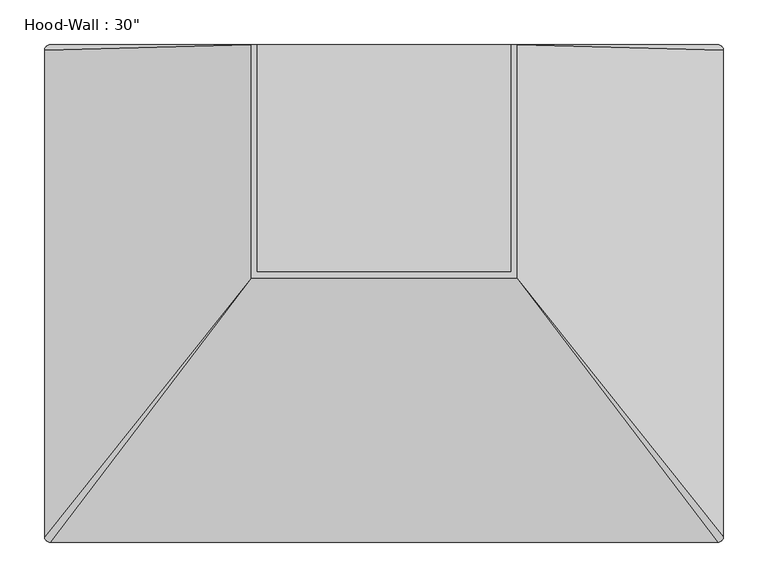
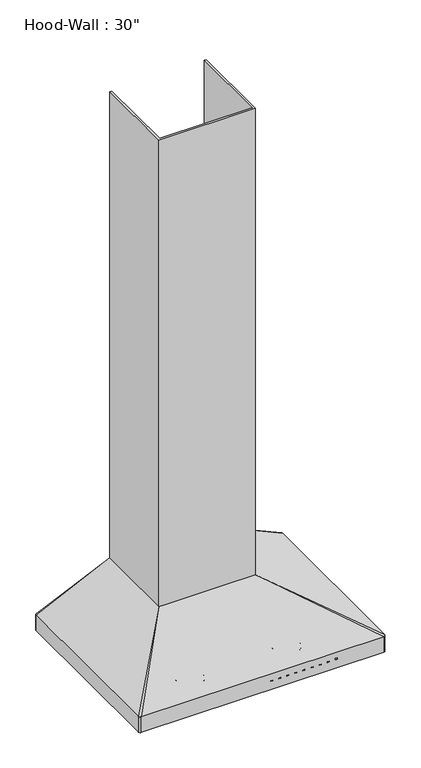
"""IFC4 building model written with IfcOpenShell, lengths in millimetres: proxy geometry."""

import ifcopenshell
import ifcopenshell.guid

model = None  # the IFC model being written
_history = None  # IfcOwnerHistory: only IFC2X3 demands one
_inside = {}  # id of a spatial element -> (the spatial element, [elements in it])
_under = {}  # id of a project, library or spatial element -> (it, [spatial elements below it])
_declared = {}  # id of a project -> (the project, [libraries it declares])
_typed = {}  # id of a type object -> (the type object, [elements of that type])
_made_of = {}  # id of a material, layer set ... -> (it, [elements and type objects made of it])


def new_model(schema):
    """Start an empty IFC model of exactly this schema.

    Asked for "IFC4X3", IfcOpenShell would pick the latest addendum, in which some entities
    have other attributes; the version numbers below select the first issue.
    IFC2X3 requires an IfcOwnerHistory on every rooted entity: one is made here for all.
    """
    global model, _history
    if schema == "IFC4X3":
        model = ifcopenshell.file(schema_version=(4, 3, 0, 0))
    else:
        model = ifcopenshell.file(schema=schema)
    _inside.clear()
    _under.clear()
    _declared.clear()
    _typed.clear()
    _made_of.clear()
    _history = None
    if model.schema == "IFC2X3":
        org = make("IfcOrganization", Name="unknown")
        user = make(
            "IfcPersonAndOrganization",
            ThePerson=make("IfcPerson", FamilyName="unknown"),
            TheOrganization=org,
        )
        app = make(
            "IfcApplication",
            ApplicationDeveloper=org,
            Version="unknown",
            ApplicationFullName="unknown",
            ApplicationIdentifier="unknown",
        )
        _history = make(
            "IfcOwnerHistory",
            OwningUser=user,
            OwningApplication=app,
            ChangeAction="ADDED",
            CreationDate=0,
        )
    return model


def make(cls, **values):
    """One entity of the class cls with the attributes given. An attribute that is None is left unset."""
    return model.create_entity(
        cls, **{name: value for name, value in values.items() if value is not None}
    )


def rooted(cls, **values):
    """An entity with a GlobalId (a new one), such as an element, a storey or a relation."""
    return make(cls, GlobalId=ifcopenshell.guid.new(), OwnerHistory=_history, **values)


def si_unit(unit_type, name, prefix=None):
    """IfcSIUnit, for example si_unit("LENGTHUNIT", "METRE", prefix="MILLI")."""
    return make("IfcSIUnit", UnitType=unit_type, Prefix=prefix, Name=name)


def assignment(units):
    """IfcUnitAssignment: the units of a project."""
    return None if units is None else make("IfcUnitAssignment", Units=units)


def point(xyz):
    """IfcCartesianPoint."""
    return None if xyz is None else make("IfcCartesianPoint", Coordinates=xyz)


def direction(xyz):
    """IfcDirection."""
    return None if xyz is None else make("IfcDirection", DirectionRatios=xyz)


def frame(location, z_axis=None, x_axis=None):
    """IfcAxis2Placement3D, a coordinate frame: its origin and axes. An axis left out is left unset."""
    return make(
        "IfcAxis2Placement3D",
        Location=point(location),
        Axis=direction(z_axis),
        RefDirection=direction(x_axis),
    )


def frame_2d(location, x_axis=None):
    """IfcAxis2Placement2D, a coordinate frame in the plane: its origin and x axis."""
    return make(
        "IfcAxis2Placement2D", Location=point(location), RefDirection=direction(x_axis)
    )


def origin():
    """The frame at (0, 0, 0) with its axes left unset."""
    return frame((0.0, 0.0, 0.0))


def place(relative_to, where):
    """IfcLocalPlacement: puts the frame where relative to a parent placement (None: the world)."""
    return make(
        "IfcLocalPlacement", PlacementRelTo=relative_to, RelativePlacement=where
    )


def context(
    kind, dimensions, precision=None, world=None, true_north=None, identifier=None
):
    """IfcGeometricRepresentationContext, for example the 3D "Model" context."""
    return make(
        "IfcGeometricRepresentationContext",
        ContextIdentifier=identifier,
        ContextType=kind,
        CoordinateSpaceDimension=dimensions,
        Precision=precision,
        WorldCoordinateSystem=world,
        TrueNorth=true_north,
    )


def project(units=None, contexts=None):
    """IfcProject with its units and contexts."""
    return rooted(
        "IfcProject",
        Name="project",
        RepresentationContexts=contexts,
        UnitsInContext=assignment(units),
    )


def spatial(cls, under=None, at=None, **own):
    """A site, building, storey or space (cls), placed at a placement, below another one or the project."""
    s = rooted(cls, ObjectPlacement=at, **own)
    if under is not None:
        _under.setdefault(under.id(), (under, []))[1].append(s)
    return s


def polyline(points):
    """IfcPolyline through the points."""
    return make("IfcPolyline", Points=[point(p) for p in points])


def circle_curve(where, radius):
    """IfcCircle in the frame where."""
    return make("IfcCircle", Position=where, Radius=radius)


def ellipse_curve(where, semi_axis1, semi_axis2):
    """IfcEllipse in the frame where."""
    return make(
        "IfcEllipse", Position=where, SemiAxis1=semi_axis1, SemiAxis2=semi_axis2
    )


def trimmed(basis, trim1, trim2, sense, master):
    """IfcTrimmedCurve: the piece of a basis curve between two trims."""
    return make(
        "IfcTrimmedCurve",
        BasisCurve=basis,
        Trim1=trim1,
        Trim2=trim2,
        SenseAgreement=sense,
        MasterRepresentation=master,
    )


def segment(curve, same_sense, transition):
    """IfcCompositeCurveSegment."""
    return make(
        "IfcCompositeCurveSegment",
        Transition=transition,
        SameSense=same_sense,
        ParentCurve=curve,
    )


def composite_curve(segments, self_intersect=None):
    """IfcCompositeCurve: segments joined end to end."""
    return make("IfcCompositeCurve", Segments=segments, SelfIntersect=self_intersect)


def outline(outer, holes=None, kind="AREA"):
    """IfcArbitraryClosedProfileDef: a profile drawn as a closed curve; with holes, ...WithVoids."""
    if holes is None:
        return make("IfcArbitraryClosedProfileDef", ProfileType=kind, OuterCurve=outer)
    return make(
        "IfcArbitraryProfileDefWithVoids",
        ProfileType=kind,
        OuterCurve=outer,
        InnerCurves=holes,
    )


def extrude(swept, where, along, depth):
    """IfcExtrudedAreaSolid: the profile swept, set in the frame where, extruded along a direction by depth."""
    return make(
        "IfcExtrudedAreaSolid",
        SweptArea=swept,
        Position=where,
        ExtrudedDirection=direction(along),
        Depth=depth,
    )


def shape(context_of_items, identifier, shape_type, items):
    """IfcShapeRepresentation: the items that make up one representation, for example the "Body"."""
    return make(
        "IfcShapeRepresentation",
        ContextOfItems=context_of_items,
        RepresentationIdentifier=identifier,
        RepresentationType=shape_type,
        Items=items,
    )


def source(mapping_origin, context_of_items, identifier, shape_type, items):
    """IfcRepresentationMap: a shape defined once, which mapped items show again and again."""
    return make(
        "IfcRepresentationMap",
        MappingOrigin=mapping_origin,
        MappedRepresentation=shape(context_of_items, identifier, shape_type, items),
    )


def transform(
    local_origin,
    x_axis=None,
    y_axis=None,
    z_axis=None,
    scale=None,
    scale2=None,
    scale3=None,
    uniform=True,
):
    """IfcCartesianTransformationOperator3D, or its non-uniform kind. x_axis, y_axis, z_axis: its Axis1, 2, 3."""
    if uniform:
        return make(
            "IfcCartesianTransformationOperator3D",
            Axis1=direction(x_axis),
            Axis2=direction(y_axis),
            LocalOrigin=point(local_origin),
            Scale=scale,
            Axis3=direction(z_axis),
        )
    return make(
        "IfcCartesianTransformationOperator3DnonUniform",
        Axis1=direction(x_axis),
        Axis2=direction(y_axis),
        LocalOrigin=point(local_origin),
        Scale=scale,
        Axis3=direction(z_axis),
        Scale2=scale2,
        Scale3=scale3,
    )


def mapped(mapping_source, mapping_target):
    """IfcMappedItem: shows the shape of a source again, moved by a transform."""
    return make(
        "IfcMappedItem", MappingSource=mapping_source, MappingTarget=mapping_target
    )


def made_of(thing, what):
    """Note that an element or type object is made of a material, layer set ...; save() writes the relation."""
    if what is not None:
        _made_of.setdefault(what.id(), (what, []))[1].append(thing)
    return thing


def element(
    cls,
    number,
    at=None,
    inside=None,
    cuts=None,
    type_object=None,
    material=None,
    context=None,
    identifier="Body",
    shape_type=None,
    held_by="IfcProductDefinitionShape",
    body=None,
    shapes=None,
    **own,
):
    """One element of the class cls, such as IfcWall. Its Tag is "e" and its number.

    at: its placement. inside: the storey or other place that contains it. cuts: it is an
    opening in that element (IfcRelVoidsElement). A single representation is given by context,
    identifier, shape_type and body (its items); several are given by shapes. held_by: the class
    of the entity that holds the representations. save() writes the other relations.
    """
    e = rooted(cls, Tag="e%d" % number, ObjectPlacement=at, **own)
    if body is not None:
        shapes = [shape(context, identifier, shape_type, body)]
    if shapes is not None:
        e.Representation = make(held_by, Representations=shapes)
    if inside is not None:
        _inside.setdefault(inside.id(), (inside, []))[1].append(e)
    if cuts is not None:
        rooted(
            "IfcRelVoidsElement", RelatingBuildingElement=cuts, RelatedOpeningElement=e
        )
    if type_object is not None:
        _typed.setdefault(type_object.id(), (type_object, []))[1].append(e)
    return made_of(e, material)


def aggregate(whole, parts):
    """IfcRelAggregates: a whole, such as a stair, and the parts it consists of."""
    return rooted("IfcRelAggregates", RelatingObject=whole, RelatedObjects=parts)


def save(model, path):
    """Write the relations noted so far, then the file.

    IfcRelAggregates (storeys below a building ...), IfcRelContainedInSpatialStructure (elements
    in a storey), IfcRelDefinesByType, IfcRelAssociatesMaterial and IfcRelDeclares: one each for
    every whole, place, type object, material and project.
    """
    for whole, parts in _under.values():
        aggregate(whole, parts)
    for where, things in _inside.values():
        rooted(
            "IfcRelContainedInSpatialStructure",
            RelatedElements=things,
            RelatingStructure=where,
        )
    for kind, things in _typed.values():
        rooted("IfcRelDefinesByType", RelatedObjects=things, RelatingType=kind)
    for what, things in _made_of.values():
        rooted("IfcRelAssociatesMaterial", RelatedObjects=things, RelatingMaterial=what)
    for by, libraries in _declared.values():
        rooted("IfcRelDeclares", RelatingContext=by, RelatedDefinitions=libraries)
    model.write(path)


def plane_surface(at):
    """IfcPlane: the flat surface through the origin of the frame at, square to its z axis."""
    return make("IfcPlane", Position=at)


def cylinder_surface(at, radius):
    """IfcCylindricalSurface: all points at the distance radius from the z axis of the frame at."""
    return make("IfcCylindricalSurface", Position=at, Radius=radius)


def revolved_surface(curve, axis_point, axis_direction):
    """IfcSurfaceOfRevolution: the curve turned about the line through axis_point along axis_direction."""
    return make(
        "IfcSurfaceOfRevolution",
        SweptCurve=make("IfcArbitraryOpenProfileDef", ProfileType="CURVE", Curve=curve),
        AxisPosition=make("IfcAxis1Placement", Location=point(axis_point), Axis=direction(axis_direction)),
    )


def spline_surface(u_degree, v_degree, points, u_multiplicities, v_multiplicities, u_knots, v_knots, weights=None):
    """IfcBSplineSurfaceWithKnots; with weights, IfcRationalBSplineSurfaceWithKnots. points: one row for each step in u."""
    own = dict(
        UDegree=u_degree,
        VDegree=v_degree,
        ControlPointsList=[[point(p) for p in row] for row in points],
        SurfaceForm="UNSPECIFIED",
        UClosed=False,
        VClosed=False,
        SelfIntersect=False,
        UMultiplicities=u_multiplicities,
        VMultiplicities=v_multiplicities,
        UKnots=u_knots,
        VKnots=v_knots,
        KnotSpec="UNSPECIFIED",
    )
    if weights is None:
        return make("IfcBSplineSurfaceWithKnots", **own)
    return make("IfcRationalBSplineSurfaceWithKnots", WeightsData=weights, **own)


def advanced_brep(points, edges, surfaces, faces):
    """IfcAdvancedBrep: a solid bounded by faces that lie on surfaces and meet in shared edges.

    An edge is (start, end): straight between two places in points (the first is 0);
    or (start, end, curve); or (start, end, curve, False) where it runs against its curve.
    A face is (place in surfaces, loops), or (place, loops, False) where it looks against
    its surface's normal. A loop lists edges by number (the first is 1), with a minus sign
    where the edge is run from its end to its start. The first loop is the outer one.
    """
    corners = [point(p) for p in points]
    vertices = [make("IfcVertexPoint", VertexGeometry=c) for c in corners]
    made = []
    for start, end, *more in edges:
        made.append(
            make(
                "IfcEdgeCurve",
                EdgeStart=vertices[start],
                EdgeEnd=vertices[end],
                EdgeGeometry=more[0] if more else make("IfcPolyline", Points=[corners[start], corners[end]]),
                SameSense=more[1] if len(more) > 1 else True,
            )
        )
    hull = []
    for where, loops, *sense in faces:
        bounds = []
        for j, loop in enumerate(loops):
            ring = [make("IfcOrientedEdge", EdgeElement=made[abs(k) - 1], Orientation=k > 0) for k in loop]
            bounds.append(
                make(
                    "IfcFaceOuterBound" if j == 0 else "IfcFaceBound",
                    Bound=make("IfcEdgeLoop", EdgeList=ring),
                    Orientation=True,
                )
            )
        hull.append(make("IfcAdvancedFace", Bounds=bounds, FaceSurface=surfaces[where], SameSense=sense[0] if sense else True))
    return make("IfcAdvancedBrep", Outer=make("IfcClosedShell", CfsFaces=hull))


def proxy_2b3b6c7e(model_context):
    return source(origin(), model_context, "Body", "SolidModel", [
        advanced_brep(
        [(-108.3239615, -121.1000753, 22.225), (-190.1260385, -121.1000753, 22.225), (-190.1260385, -121.1000753, 25.4), (-108.3239615, -121.1000753, 25.4), (-111.4989615, -121.1000753, 22.225), (-186.9510385, -121.1000753, 22.225), (-149.225, -121.1000753, 22.225), (-113.9260385, -121.1000753, 39.0878257), (-184.5239615, -121.1000753, 39.0878257), (-149.225, -121.1000753, 39.0878257), (-111.125, -121.1000753, 26.9551949), (-187.325, -121.1000753, 26.9551949), (-111.125, -121.1000753, 25.4), (-187.325, -121.1000753, 25.4)],
        [
            (0, 1, circle_curve(frame((-149.225, -121.1000753, 22.225), z_axis=(0.0, 0.0, 1.0), x_axis=(-1.0, 0.0, 0.0)), 40.9010385)),
            (1, 2),
            (2, 3, circle_curve(frame((-149.225, -121.1000753, 25.4), z_axis=(0.0, 0.0, -1.0), x_axis=(-1.0, 0.0, 0.0)), 40.9010385)),
            (3, 0),
            (1, 0, circle_curve(frame((-149.225, -121.1000753, 22.225), z_axis=(0.0, 0.0, 1.0), x_axis=(-1.0, 0.0, 0.0)), 40.9010385)),
            (3, 2, circle_curve(frame((-149.225, -121.1000753, 25.4), z_axis=(0.0, 0.0, -1.0), x_axis=(-1.0, 0.0, 0.0)), 40.9010385)),
            (4, 5, circle_curve(frame((-149.225, -121.1000753, 22.225), z_axis=(0.0, 0.0, 1.0), x_axis=(-1.0, 0.0, 0.0)), 37.7260385)),
            (5, 1, circle_curve(frame((-188.5385385, -121.1000753, 22.225), z_axis=(0.0, 1.0, 0.0), x_axis=(1.0, 0.0, 0.0)), 1.5875)),
            (0, 4, circle_curve(frame((-109.9114615, -121.1000753, 22.225), z_axis=(0.0, 1.0, 0.0), x_axis=(-1.0, 0.0, 0.0)), 1.5875)),
            (5, 4, circle_curve(frame((-149.225, -121.1000753, 22.225), z_axis=(0.0, 0.0, 1.0), x_axis=(-1.0, 0.0, 0.0)), 37.7260385)),
            (6, 5),
            (4, 6),
            (7, 8, circle_curve(frame((-149.225, -121.1000753, 39.0878257), z_axis=(0.0, 0.0, 1.0), x_axis=(-1.0, 0.0, 0.0)), 35.2989615)),
            (8, 9),
            (9, 7),
            (8, 7, circle_curve(frame((-149.225, -121.1000753, 39.0878257), z_axis=(0.0, 0.0, 1.0), x_axis=(-1.0, 0.0, 0.0)), 35.2989615)),
            (10, 11, circle_curve(frame((-149.225, -121.1000753, 26.9551949), z_axis=(0.0, 0.0, 1.0), x_axis=(-1.0, 0.0, 0.0)), 38.1)),
            (11, 8),
            (7, 10),
            (11, 10, circle_curve(frame((-149.225, -121.1000753, 26.9551949), z_axis=(0.0, 0.0, 1.0), x_axis=(-1.0, 0.0, 0.0)), 38.1)),
            (12, 13, circle_curve(frame((-149.225, -121.1000753, 25.4), z_axis=(0.0, 0.0, 1.0), x_axis=(-1.0, 0.0, 0.0)), 38.1)),
            (13, 11),
            (10, 12),
            (13, 12, circle_curve(frame((-149.225, -121.1000753, 25.4), z_axis=(0.0, 0.0, 1.0), x_axis=(-1.0, 0.0, 0.0)), 38.1)),
            (2, 13),
            (12, 3),
        ],
        [
            cylinder_surface(frame((-149.225, -121.1000753, -25.4), z_axis=(0.0, 0.0, -1.0), x_axis=(-1.0, 0.0, 0.0)), 40.9010385),
            revolved_surface(trimmed(ellipse_curve(frame((-188.5385385, -121.1000753, 22.225), z_axis=(0.0, -1.0, 0.0), x_axis=(1.0, 0.0, 0.0)), 1.5875, 1.5875), [point((-190.1260385, -121.1000753, 22.225))], [point((-186.9510385, -121.1000753, 22.225))], True, "CARTESIAN"), (-149.225, -121.1000753, -25.4), (0.0, 0.0, -1.0)),
            plane_surface(frame((-149.225, -121.1000753, 22.225), z_axis=(0.0, 0.0, -1.0), x_axis=(-1.0, 0.0, 0.0))),
            plane_surface(frame((-149.225, -121.1000753, 39.0878257), z_axis=(0.0, 0.0, 1.0), x_axis=(-1.0, 0.0, 0.0))),
            revolved_surface(polyline([(-184.5239615, -121.1000753, 39.0878257), (-187.325, -121.1000753, 26.9551949)]), (-149.225, -121.1000753, -25.4), (0.0, 0.0, -1.0)),
            cylinder_surface(frame((-149.225, -121.1000753, -25.4), z_axis=(0.0, 0.0, -1.0), x_axis=(-1.0, 0.0, 0.0)), 38.1),
            plane_surface(frame((-149.225, -121.1000753, 25.4), z_axis=(0.0, 0.0, 1.0), x_axis=(-1.0, 0.0, 0.0))),
        ],
        [
            (0, [[1, 2, 3, 4]]),
            (0, [[5, -4, 6, -2]]),
            (1, [[7, 8, -1, 9]]),
            (1, [[10, -9, -5, -8]]),
            (2, [[11, -7, 12]]),
            (2, [[-12, -10, -11]]),
            (3, [[13, 14, 15]]),
            (3, [[16, -15, -14]]),
            (4, [[17, 18, -13, 19]]),
            (4, [[20, -19, -16, -18]]),
            (5, [[21, 22, -17, 23]]),
            (5, [[24, -23, -20, -22]]),
            (6, [[-3, 25, -21, 26]]),
            (6, [[-6, -26, -24, -25]]),
        ],
    ),
        advanced_brep(
        [(190.1260385, -121.1000753, 22.225), (108.3239615, -121.1000753, 22.225), (108.3239615, -121.1000753, 25.4), (190.1260385, -121.1000753, 25.4), (186.9510385, -121.1000753, 22.225), (111.4989615, -121.1000753, 22.225), (149.225, -121.1000753, 22.225), (184.5239615, -121.1000753, 39.0878257), (113.9260385, -121.1000753, 39.0878257), (149.225, -121.1000753, 39.0878257), (187.325, -121.1000753, 26.9551949), (111.125, -121.1000753, 26.9551949), (187.325, -121.1000753, 25.4), (111.125, -121.1000753, 25.4)],
        [
            (0, 1, circle_curve(frame((149.225, -121.1000753, 22.225), z_axis=(0.0, 0.0, 1.0), x_axis=(-1.0, 0.0, 0.0)), 40.9010385)),
            (1, 2),
            (2, 3, circle_curve(frame((149.225, -121.1000753, 25.4), z_axis=(0.0, 0.0, -1.0), x_axis=(-1.0, 0.0, 0.0)), 40.9010385)),
            (3, 0),
            (1, 0, circle_curve(frame((149.225, -121.1000753, 22.225), z_axis=(0.0, 0.0, 1.0), x_axis=(-1.0, 0.0, 0.0)), 40.9010385)),
            (3, 2, circle_curve(frame((149.225, -121.1000753, 25.4), z_axis=(0.0, 0.0, -1.0), x_axis=(-1.0, 0.0, 0.0)), 40.9010385)),
            (4, 5, circle_curve(frame((149.225, -121.1000753, 22.225), z_axis=(0.0, 0.0, 1.0), x_axis=(-1.0, 0.0, 0.0)), 37.7260385)),
            (5, 1, circle_curve(frame((109.9114615, -121.1000753, 22.225), z_axis=(0.0, 1.0, 0.0), x_axis=(1.0, 0.0, 0.0)), 1.5875)),
            (0, 4, circle_curve(frame((188.5385385, -121.1000753, 22.225), z_axis=(0.0, 1.0, 0.0), x_axis=(-1.0, 0.0, 0.0)), 1.5875)),
            (5, 4, circle_curve(frame((149.225, -121.1000753, 22.225), z_axis=(0.0, 0.0, 1.0), x_axis=(-1.0, 0.0, 0.0)), 37.7260385)),
            (6, 5),
            (4, 6),
            (7, 8, circle_curve(frame((149.225, -121.1000753, 39.0878257), z_axis=(0.0, 0.0, 1.0), x_axis=(-1.0, 0.0, 0.0)), 35.2989615)),
            (8, 9),
            (9, 7),
            (8, 7, circle_curve(frame((149.225, -121.1000753, 39.0878257), z_axis=(0.0, 0.0, 1.0), x_axis=(-1.0, 0.0, 0.0)), 35.2989615)),
            (10, 11, circle_curve(frame((149.225, -121.1000753, 26.9551949), z_axis=(0.0, 0.0, 1.0), x_axis=(-1.0, 0.0, 0.0)), 38.1)),
            (11, 8),
            (7, 10),
            (11, 10, circle_curve(frame((149.225, -121.1000753, 26.9551949), z_axis=(0.0, 0.0, 1.0), x_axis=(-1.0, 0.0, 0.0)), 38.1)),
            (12, 13, circle_curve(frame((149.225, -121.1000753, 25.4), z_axis=(0.0, 0.0, 1.0), x_axis=(-1.0, 0.0, 0.0)), 38.1)),
            (13, 11),
            (10, 12),
            (13, 12, circle_curve(frame((149.225, -121.1000753, 25.4), z_axis=(0.0, 0.0, 1.0), x_axis=(-1.0, 0.0, 0.0)), 38.1)),
            (2, 13),
            (12, 3),
        ],
        [
            cylinder_surface(frame((149.225, -121.1000753, -25.4), z_axis=(0.0, 0.0, -1.0), x_axis=(-1.0, 0.0, 0.0)), 40.9010385),
            revolved_surface(trimmed(ellipse_curve(frame((109.9114615, -121.1000753, 22.225), z_axis=(0.0, -1.0, 0.0), x_axis=(1.0, 0.0, 0.0)), 1.5875, 1.5875), [point((108.3239615, -121.1000753, 22.225))], [point((111.4989615, -121.1000753, 22.225))], True, "CARTESIAN"), (149.225, -121.1000753, -25.4), (0.0, 0.0, -1.0)),
            plane_surface(frame((149.225, -121.1000753, 22.225), z_axis=(0.0, 0.0, -1.0), x_axis=(-1.0, 0.0, 0.0))),
            plane_surface(frame((149.225, -121.1000753, 39.0878257), z_axis=(0.0, 0.0, 1.0), x_axis=(-1.0, 0.0, 0.0))),
            revolved_surface(polyline([(113.9260385, -121.1000753, 39.0878257), (111.125, -121.1000753, 26.9551949)]), (149.225, -121.1000753, -25.4), (0.0, 0.0, -1.0)),
            cylinder_surface(frame((149.225, -121.1000753, -25.4), z_axis=(0.0, 0.0, -1.0), x_axis=(-1.0, 0.0, 0.0)), 38.1),
            plane_surface(frame((149.225, -121.1000753, 25.4), z_axis=(0.0, 0.0, 1.0), x_axis=(-1.0, 0.0, 0.0))),
        ],
        [
            (0, [[1, 2, 3, 4]]),
            (0, [[5, -4, 6, -2]]),
            (1, [[7, 8, -1, 9]]),
            (1, [[10, -9, -5, -8]]),
            (2, [[11, -7, 12]]),
            (2, [[-12, -10, -11]]),
            (3, [[13, 14, 15]]),
            (3, [[16, -15, -14]]),
            (4, [[17, 18, -13, 19]]),
            (4, [[20, -19, -16, -18]]),
            (5, [[21, 22, -17, 23]]),
            (5, [[24, -23, -20, -22]]),
            (6, [[-3, 25, -21, 26]]),
            (6, [[-6, -26, -24, -25]]),
        ],
    ),
        advanced_brep(
        [(374.65, 308.0000034, 0.0), (381.0, 301.6500034, 0.0), (381.0, -244.4499966, 0.0), (374.65, -250.7999966, 0.0), (-374.65, -250.7999966, 0.0), (-381.0, -244.4499966, 0.0), (-381.0, 301.6500034, 0.0), (-374.65, 308.0000034, 0.0), (330.2, 282.6000034, 0.0), (-330.2, 282.6000034, 0.0), (-330.2, -197.3000753, 0.0), (330.2, -197.3000753, 0.0), (-374.65, 308.0000034, 50.8), (-149.225, 308.0000034, 152.4), (-149.225, 308.0000034, 1676.4), (-142.875, 308.0000034, 1676.4), (-142.875, 308.0000034, 304.8), (142.875, 308.0000034, 304.8), (142.875, 308.0000034, 1676.4), (149.225, 308.0000034, 1676.4), (149.225, 308.0000034, 152.4), (374.65, 308.0000034, 50.8), (-381.0, -244.4499966, 50.8), (-381.0, 301.6500034, 50.8), (374.65, -250.7999966, 50.8), (-374.65, -250.7999966, 50.8), (31.2756104, -250.7999966, 28.900217), (31.2756104, -250.7999966, 26.8000868), (25.1757243, -250.7999966, 26.8000868), (25.1757243, -250.7999966, 28.900217), (56.2756348, -250.7999966, 28.900217), (56.2756348, -250.7999966, 26.8000868), (50.1757487, -250.7999966, 26.8000868), (50.1757487, -250.7999966, 28.900217), (81.2756592, -250.7999966, 28.900217), (81.2756592, -250.7999966, 26.8000868), (75.1757731, -250.7999966, 26.8000868), (75.1757731, -250.7999966, 28.900217), (106.2756836, -250.7999966, 28.900217), (106.2756836, -250.7999966, 26.8000868), (100.1757975, -250.7999966, 26.8000868), (100.1757975, -250.7999966, 28.900217), (131.275708, -250.7999966, 28.900217), (131.275708, -250.7999966, 26.8000868), (125.1758219, -250.7999966, 26.8000868), (125.1758219, -250.7999966, 28.900217), (156.5654748, -250.7999966, 28.900217), (156.5654748, -250.7999966, 26.8000868), (150.1758464, -250.7999966, 26.8000868), (150.1758464, -250.7999966, 28.900217), (206.2754367, -250.7999966, 28.900217), (206.2754367, -250.7999966, 26.8000868), (200.1755507, -250.7999966, 26.8000868), (200.1755507, -250.7999966, 28.900217), (231.1758979, -250.7999966, 32.7001573), (231.1758979, -250.7999966, 26.8000868), (225.2758274, -250.7999966, 26.8000868), (225.2758274, -250.7999966, 32.7001573), (181.2757568, -250.7999966, 28.900217), (181.2757568, -250.7999966, 26.8000868), (175.1758708, -250.7999966, 26.8000868), (175.1758708, -250.7999966, 28.900217), (381.0, 301.6500034, 50.8), (381.0, -244.4499966, 50.8), (330.2, -197.3000753, 50.8), (330.2, 282.6000034, 50.8), (-330.2, -197.3000753, 50.8), (-330.2, 282.6000034, 50.8), (31.2756104, -249.2124966, 28.900217), (25.1757243, -249.2124966, 28.900217), (25.1757243, -249.2124966, 26.8000868), (31.2756104, -249.2124966, 26.8000868), (56.2756348, -249.2124966, 28.900217), (50.1757487, -249.2124966, 28.900217), (50.1757487, -249.2124966, 26.8000868), (56.2756348, -249.2124966, 26.8000868), (81.2756592, -249.2124966, 28.900217), (75.1757731, -249.2124966, 28.900217), (75.1757731, -249.2124966, 26.8000868), (81.2756592, -249.2124966, 26.8000868), (106.2756836, -249.2124966, 28.900217), (100.1757975, -249.2124966, 28.900217), (100.1757975, -249.2124966, 26.8000868), (106.2756836, -249.2124966, 26.8000868), (131.275708, -249.2124966, 28.900217), (125.1758219, -249.2124966, 28.900217), (125.1758219, -249.2124966, 26.8000868), (131.275708, -249.2124966, 26.8000868), (156.5654748, -249.2124966, 28.900217), (150.1758464, -249.2124966, 28.900217), (150.1758464, -249.2124966, 26.8000868), (156.5654748, -249.2124966, 26.8000868), (206.2754367, -249.2124966, 28.900217), (200.1755507, -249.2124966, 28.900217), (200.1755507, -249.2124966, 26.8000868), (206.2754367, -249.2124966, 26.8000868), (231.1758979, -249.2124966, 32.7001573), (225.2758274, -249.2124966, 32.7001573), (225.2758274, -249.2124966, 26.8000868), (231.1758979, -249.2124966, 26.8000868), (181.2757568, -249.2124966, 28.900217), (175.1758708, -249.2124966, 28.900217), (175.1758708, -249.2124966, 26.8000868), (181.2757568, -249.2124966, 26.8000868), (-149.225, 45.9000671, 1676.4), (149.225, 45.9000671, 1676.4), (142.875, 52.2500671, 1676.4), (-142.875, 52.2500671, 1676.4), (-149.225, 45.9000671, 152.4), (149.225, 45.9000671, 152.4), (142.875, 52.2500671, 304.8), (-142.875, 52.2500671, 304.8)],
        [
            (0, 1, circle_curve(frame((374.65, 301.6500034, 0.0), z_axis=(0.0, 0.0, -1.0), x_axis=(1.0, 0.0, 0.0)), 6.35)),
            (1, 2),
            (2, 3, circle_curve(frame((374.65, -244.4499966, 0.0), z_axis=(0.0, 0.0, -1.0), x_axis=(1.0, 0.0, 0.0)), 6.35)),
            (3, 4),
            (4, 5, circle_curve(frame((-374.65, -244.4499966, 0.0), z_axis=(0.0, 0.0, -1.0), x_axis=(1.0, 0.0, 0.0)), 6.35)),
            (5, 6),
            (6, 7, circle_curve(frame((-374.65, 301.6500034, 0.0), z_axis=(0.0, 0.0, -1.0), x_axis=(1.0, 0.0, 0.0)), 6.35)),
            (7, 0),
            (8, 9),
            (9, 10),
            (10, 11),
            (11, 8),
            (7, 12),
            (12, 13),
            (13, 14),
            (14, 15),
            (15, 16),
            (16, 17),
            (17, 18),
            (18, 19),
            (19, 20),
            (20, 21),
            (21, 0),
            (5, 22),
            (22, 23),
            (23, 6),
            (3, 24),
            (24, 25),
            (25, 4),
            (26, 27),
            (27, 28),
            (28, 29),
            (29, 26),
            (30, 31),
            (31, 32),
            (32, 33),
            (33, 30),
            (34, 35),
            (35, 36),
            (36, 37),
            (37, 34),
            (38, 39),
            (39, 40),
            (40, 41),
            (41, 38),
            (42, 43),
            (43, 44),
            (44, 45),
            (45, 42),
            (46, 47),
            (47, 48),
            (48, 49),
            (49, 46),
            (50, 51),
            (51, 52),
            (52, 53),
            (53, 50),
            (54, 55),
            (55, 56),
            (56, 57),
            (57, 54),
            (58, 59),
            (59, 60),
            (60, 61),
            (61, 58),
            (1, 62),
            (62, 63),
            (63, 2),
            (11, 64),
            (64, 65),
            (65, 8),
            (10, 66),
            (66, 64),
            (9, 67),
            (67, 66),
            (65, 67),
            (23, 12, circle_curve(frame((-374.65, 301.6500034, 50.8), z_axis=(0.0, 0.0, -1.0), x_axis=(1.0, 0.0, 0.0)), 6.35)),
            (25, 22, circle_curve(frame((-374.65, -244.4499966, 50.8), z_axis=(0.0, 0.0, -1.0), x_axis=(1.0, 0.0, 0.0)), 6.35)),
            (63, 24, circle_curve(frame((374.65, -244.4499966, 50.8), z_axis=(0.0, 0.0, -1.0), x_axis=(1.0, 0.0, 0.0)), 6.35)),
            (21, 62, circle_curve(frame((374.65, 301.6500034, 50.8), z_axis=(0.0, 0.0, -1.0), x_axis=(1.0, 0.0, 0.0)), 6.35)),
            (68, 69),
            (69, 70),
            (70, 71),
            (71, 68),
            (72, 73),
            (73, 74),
            (74, 75),
            (75, 72),
            (76, 77),
            (77, 78),
            (78, 79),
            (79, 76),
            (80, 81),
            (81, 82),
            (82, 83),
            (83, 80),
            (84, 85),
            (85, 86),
            (86, 87),
            (87, 84),
            (88, 89),
            (89, 90),
            (90, 91),
            (91, 88),
            (92, 93),
            (93, 94),
            (94, 95),
            (95, 92),
            (96, 97),
            (97, 98),
            (98, 99),
            (99, 96),
            (71, 27),
            (26, 68),
            (70, 28),
            (69, 29),
            (75, 31),
            (30, 72),
            (74, 32),
            (73, 33),
            (79, 35),
            (34, 76),
            (78, 36),
            (77, 37),
            (83, 39),
            (38, 80),
            (82, 40),
            (81, 41),
            (87, 43),
            (42, 84),
            (86, 44),
            (85, 45),
            (91, 47),
            (46, 88),
            (90, 48),
            (89, 49),
            (95, 51),
            (50, 92),
            (94, 52),
            (93, 53),
            (99, 55),
            (54, 96),
            (98, 56),
            (97, 57),
            (100, 101),
            (101, 102),
            (102, 103),
            (103, 100),
            (103, 59),
            (58, 100),
            (102, 60),
            (101, 61),
            (104, 105),
            (105, 19),
            (18, 106),
            (106, 107),
            (107, 15),
            (14, 104),
            (104, 108),
            (108, 109),
            (109, 105),
            (109, 20),
            (17, 110),
            (110, 106),
            (110, 111),
            (111, 107),
            (111, 16),
            (13, 108),
            (22, 108),
            (13, 23),
            (25, 108),
            (24, 109),
            (63, 109),
            (62, 20),
        ],
        [
            plane_surface(frame((-374.65, 308.0000034, 0.0), z_axis=(0.0, 0.0, -1.0), x_axis=(1.0, 0.0, 0.0))),
            plane_surface(frame((374.65, 308.0000034, 50.8), z_axis=(0.0, 1.0, 0.0), x_axis=(0.0, 0.0, -1.0))),
            plane_surface(frame((-381.0, 301.6500034, 50.8), z_axis=(-1.0, 0.0, 0.0), x_axis=(0.0, 0.0, -1.0))),
            plane_surface(frame((-374.65, -250.7999966, 50.8), z_axis=(0.0, -1.0, 0.0), x_axis=(0.0, 0.0, -1.0))),
            plane_surface(frame((381.0, -244.4499966, 50.8), z_axis=(1.0, 0.0, 0.0), x_axis=(0.0, 0.0, -1.0))),
            plane_surface(frame((330.2, 282.6000034, 50.8), z_axis=(-1.0, 0.0, 0.0), x_axis=(0.0, 0.0, -1.0))),
            plane_surface(frame((330.2, -197.3000753, 50.8), z_axis=(0.0, 1.0, 0.0), x_axis=(0.0, 0.0, -1.0))),
            plane_surface(frame((-330.2, -197.3000753, 50.8), z_axis=(1.0, 0.0, 0.0), x_axis=(0.0, 0.0, -1.0))),
            plane_surface(frame((-330.2, 282.6000034, 50.8), z_axis=(0.0, -1.0, 0.0), x_axis=(0.0, 0.0, -1.0))),
            cylinder_surface(frame((-374.65, 301.6500034, 0.0), z_axis=(0.0, 0.0, 1.0), x_axis=(1.0, 0.0, 0.0)), 6.35),
            cylinder_surface(frame((-374.65, -244.4499966, 0.0), z_axis=(0.0, 0.0, 1.0), x_axis=(1.0, 0.0, 0.0)), 6.35),
            cylinder_surface(frame((374.65, -244.4499966, 0.0), z_axis=(0.0, 0.0, 1.0), x_axis=(1.0, 0.0, 0.0)), 6.35),
            cylinder_surface(frame((374.65, 301.6500034, 0.0), z_axis=(0.0, 0.0, 1.0), x_axis=(1.0, 0.0, 0.0)), 6.35),
            plane_surface(frame((31.2756104, -249.2124966, 28.900217), z_axis=(0.0, -1.0, 0.0), x_axis=(0.0, 0.0, -1.0))),
            plane_surface(frame((31.2756104, -249.2124966, 28.900217), z_axis=(-1.0, 0.0, 0.0), x_axis=(0.0, -1.0, 0.0))),
            plane_surface(frame((31.2756104, -249.2124966, 26.8000868), z_axis=(0.0, 0.0, 1.0), x_axis=(0.0, -1.0, 0.0))),
            plane_surface(frame((25.1757243, -249.2124966, 26.8000868), z_axis=(1.0, 0.0, 0.0), x_axis=(0.0, -1.0, 0.0))),
            plane_surface(frame((25.1757243, -249.2124966, 28.900217), z_axis=(0.0, 0.0, -1.0), x_axis=(0.0, -1.0, 0.0))),
            plane_surface(frame((56.2756348, -249.2124966, 28.900217), z_axis=(-1.0, 0.0, 0.0), x_axis=(0.0, -1.0, 0.0))),
            plane_surface(frame((56.2756348, -249.2124966, 26.8000868), z_axis=(0.0, 0.0, 1.0), x_axis=(0.0, -1.0, 0.0))),
            plane_surface(frame((50.1757487, -249.2124966, 26.8000868), z_axis=(1.0, 0.0, 0.0), x_axis=(0.0, -1.0, 0.0))),
            plane_surface(frame((50.1757487, -249.2124966, 28.900217), z_axis=(0.0, 0.0, -1.0), x_axis=(0.0, -1.0, 0.0))),
            plane_surface(frame((81.2756592, -249.2124966, 28.900217), z_axis=(-1.0, 0.0, 0.0), x_axis=(0.0, -1.0, 0.0))),
            plane_surface(frame((81.2756592, -249.2124966, 26.8000868), z_axis=(0.0, 0.0, 1.0), x_axis=(0.0, -1.0, 0.0))),
            plane_surface(frame((75.1757731, -249.2124966, 26.8000868), z_axis=(1.0, 0.0, 0.0), x_axis=(0.0, -1.0, 0.0))),
            plane_surface(frame((75.1757731, -249.2124966, 28.900217), z_axis=(0.0, 0.0, -1.0), x_axis=(0.0, -1.0, 0.0))),
            plane_surface(frame((106.2756836, -249.2124966, 28.900217), z_axis=(-1.0, 0.0, 0.0), x_axis=(0.0, -1.0, 0.0))),
            plane_surface(frame((106.2756836, -249.2124966, 26.8000868), z_axis=(0.0, 0.0, 1.0), x_axis=(0.0, -1.0, 0.0))),
            plane_surface(frame((100.1757975, -249.2124966, 26.8000868), z_axis=(1.0, 0.0, 0.0), x_axis=(0.0, -1.0, 0.0))),
            plane_surface(frame((100.1757975, -249.2124966, 28.900217), z_axis=(0.0, 0.0, -1.0), x_axis=(0.0, -1.0, 0.0))),
            plane_surface(frame((131.275708, -249.2124966, 28.900217), z_axis=(-1.0, 0.0, 0.0), x_axis=(0.0, -1.0, 0.0))),
            plane_surface(frame((131.275708, -249.2124966, 26.8000868), z_axis=(0.0, 0.0, 1.0), x_axis=(0.0, -1.0, 0.0))),
            plane_surface(frame((125.1758219, -249.2124966, 26.8000868), z_axis=(1.0, 0.0, 0.0), x_axis=(0.0, -1.0, 0.0))),
            plane_surface(frame((125.1758219, -249.2124966, 28.900217), z_axis=(0.0, 0.0, -1.0), x_axis=(0.0, -1.0, 0.0))),
            plane_surface(frame((156.5654748, -249.2124966, 28.900217), z_axis=(-1.0, 0.0, 0.0), x_axis=(0.0, -1.0, 0.0))),
            plane_surface(frame((156.5654748, -249.2124966, 26.8000868), z_axis=(0.0, 0.0, 1.0), x_axis=(0.0, -1.0, 0.0))),
            plane_surface(frame((150.1758464, -249.2124966, 26.8000868), z_axis=(1.0, 0.0, 0.0), x_axis=(0.0, -1.0, 0.0))),
            plane_surface(frame((150.1758464, -249.2124966, 28.900217), z_axis=(0.0, 0.0, -1.0), x_axis=(0.0, -1.0, 0.0))),
            plane_surface(frame((206.2754367, -249.2124966, 28.900217), z_axis=(-1.0, 0.0, 0.0), x_axis=(0.0, -1.0, 0.0))),
            plane_surface(frame((206.2754367, -249.2124966, 26.8000868), z_axis=(0.0, 0.0, 1.0), x_axis=(0.0, -1.0, 0.0))),
            plane_surface(frame((200.1755507, -249.2124966, 26.8000868), z_axis=(1.0, 0.0, 0.0), x_axis=(0.0, -1.0, 0.0))),
            plane_surface(frame((200.1755507, -249.2124966, 28.900217), z_axis=(0.0, 0.0, -1.0), x_axis=(0.0, -1.0, 0.0))),
            plane_surface(frame((231.1758979, -249.2124966, 32.7001573), z_axis=(-1.0, 0.0, 0.0), x_axis=(0.0, -1.0, 0.0))),
            plane_surface(frame((231.1758979, -249.2124966, 26.8000868), z_axis=(0.0, 0.0, 1.0), x_axis=(0.0, -1.0, 0.0))),
            plane_surface(frame((225.2758274, -249.2124966, 26.8000868), z_axis=(1.0, 0.0, 0.0), x_axis=(0.0, -1.0, 0.0))),
            plane_surface(frame((225.2758274, -249.2124966, 32.7001573), z_axis=(0.0, 0.0, -1.0), x_axis=(0.0, -1.0, 0.0))),
            plane_surface(frame((181.2757568, -249.2124966, 28.900217), z_axis=(0.0, -1.0, 0.0), x_axis=(0.0, 0.0, -1.0))),
            plane_surface(frame((181.2757568, -249.2124966, 28.900217), z_axis=(-1.0, 0.0, 0.0), x_axis=(0.0, -1.0, 0.0))),
            plane_surface(frame((181.2757568, -249.2124966, 26.8000868), z_axis=(0.0, 0.0, 1.0), x_axis=(0.0, -1.0, 0.0))),
            plane_surface(frame((175.1758708, -249.2124966, 26.8000868), z_axis=(1.0, 0.0, 0.0), x_axis=(0.0, -1.0, 0.0))),
            plane_surface(frame((175.1758708, -249.2124966, 28.900217), z_axis=(0.0, 0.0, -1.0), x_axis=(0.0, -1.0, 0.0))),
            plane_surface(frame((-149.225, 45.9000671, 1676.4), z_axis=(0.0, 0.0, 1.0), x_axis=(1.0, 0.0, 0.0))),
            plane_surface(frame((-149.225, 45.9000671, 1676.4), z_axis=(0.0, -1.0, 0.0), x_axis=(0.0, 0.0, -1.0))),
            plane_surface(frame((149.225, 45.9000671, 1676.4), z_axis=(1.0, 0.0, 0.0), x_axis=(0.0, 0.0, -1.0))),
            plane_surface(frame((142.875, 308.0000034, 1676.4), z_axis=(-1.0, 0.0, 0.0), x_axis=(0.0, 0.0, -1.0))),
            plane_surface(frame((142.875, 52.2500671, 1676.4), z_axis=(0.0, 1.0, 0.0), x_axis=(0.0, 0.0, -1.0))),
            plane_surface(frame((-142.875, 52.2500671, 1676.4), z_axis=(1.0, 0.0, 0.0), x_axis=(0.0, 0.0, -1.0))),
            plane_surface(frame((-149.225, 308.0000034, 1676.4), z_axis=(-1.0, 0.0, 0.0), x_axis=(0.0, 0.0, -1.0))),
            plane_surface(frame((-149.225, 308.0000034, 304.8), z_axis=(0.0, 0.0, 1.0), x_axis=(-1.0, 0.0, 0.0))),
            plane_surface(frame((0.0, 28.6000034, 50.8), z_axis=(0.0, 0.0, -1.0), x_axis=(-1.0, 0.0, 0.0))),
            plane_surface(frame((-381.0, 28.6000034, 50.8), z_axis=(-0.4014768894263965, 0.0, 0.9158691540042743), x_axis=(0.0, -1.0, 0.0))),
            spline_surface(2, 1, [[(-381.0, -244.4499966, 50.8), (-149.225, 45.9000671, 152.4)], [(-381.0, -250.79999660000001, 50.8), (-149.225, 45.9000671, 152.4)], [(-374.65, -250.7999966, 50.8), (-149.225, 45.9000671, 152.4)]], [3, 3], [2, 2], [0.0, 1.0], [0.0, 1.0], weights=[[1.0, 1.0], [0.7071067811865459, 0.7071067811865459], [1.0, 1.0]]),
            plane_surface(frame((0.0, -250.7999966, 50.8), z_axis=(0.0, -0.32396554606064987, 0.9460688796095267), x_axis=(1.0, 0.0, 0.0))),
            spline_surface(2, 1, [[(374.65, -250.7999966, 50.8), (149.225, 45.9000671, 152.4)], [(381.0, -250.79999659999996, 50.8), (149.225, 45.9000671, 152.4)], [(381.0, -244.4499966, 50.8), (149.225, 45.9000671, 152.4)]], [3, 3], [2, 2], [0.0, 1.0], [0.0, 1.0], weights=[[1.0, 1.0], [0.7071067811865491, 0.7071067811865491], [1.0, 1.0]]),
            plane_surface(frame((381.0, 28.6000034, 50.8), z_axis=(0.40147688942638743, 0.0, 0.9158691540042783), x_axis=(0.0, 1.0, 0.0))),
            spline_surface(2, 1, [[(381.0, 301.6500034, 50.8), (149.225, 308.0000034, 152.4)], [(381.0, 308.0000034, 50.8), (149.225, 308.0000034, 152.4)], [(374.65, 308.0000034, 50.8), (149.225, 308.0000034, 152.4)]], [3, 3], [2, 2], [0.0, 1.0], [0.0, 1.0], weights=[[1.0, 1.0], [0.7071067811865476, 0.7071067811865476], [1.0, 1.0]]),
            spline_surface(2, 1, [[(-374.65, 308.0000034, 50.8), (-149.225, 308.0000034, 152.4)], [(-381.0, 308.0000034, 50.8), (-149.225, 308.0000034, 152.4)], [(-381.0, 301.6500034, 50.8), (-149.225, 308.0000034, 152.4)]], [3, 3], [2, 2], [0.0, 1.0], [0.0, 1.0], weights=[[1.0, 1.0], [0.7071067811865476, 0.7071067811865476], [1.0, 1.0]]),
        ],
        [
            (0, [[1, 2, 3, 4, 5, 6, 7, 8], [9, 10, 11, 12]]),
            (1, [[-8, 13, 14, 15, 16, 17, 18, 19, 20, 21, 22, 23]]),
            (2, [[-6, 24, 25, 26]]),
            (3, [[-4, 27, 28, 29], [30, 31, 32, 33], [34, 35, 36, 37], [38, 39, 40, 41], [42, 43, 44, 45], [46, 47, 48, 49], [50, 51, 52, 53], [54, 55, 56, 57], [58, 59, 60, 61], [62, 63, 64, 65]]),
            (4, [[-2, 66, 67, 68]]),
            (5, [[-12, 69, 70, 71]]),
            (6, [[-11, 72, 73, -69]]),
            (7, [[-10, 74, 75, -72]]),
            (8, [[-9, -71, 76, -74]]),
            (9, [[-7, -26, 77, -13]]),
            (10, [[-5, -29, 78, -24]]),
            (11, [[-3, -68, 79, -27]]),
            (12, [[-1, -23, 80, -66]]),
            (13, [[81, 82, 83, 84]]),
            (13, [[85, 86, 87, 88]]),
            (13, [[89, 90, 91, 92]]),
            (13, [[93, 94, 95, 96]]),
            (13, [[97, 98, 99, 100]]),
            (13, [[101, 102, 103, 104]]),
            (13, [[105, 106, 107, 108]]),
            (13, [[109, 110, 111, 112]]),
            (14, [[-84, 113, -30, 114]]),
            (15, [[-83, 115, -31, -113]]),
            (16, [[-82, 116, -32, -115]]),
            (17, [[-81, -114, -33, -116]]),
            (18, [[-88, 117, -34, 118]]),
            (19, [[-87, 119, -35, -117]]),
            (20, [[-86, 120, -36, -119]]),
            (21, [[-85, -118, -37, -120]]),
            (22, [[-92, 121, -38, 122]]),
            (23, [[-91, 123, -39, -121]]),
            (24, [[-90, 124, -40, -123]]),
            (25, [[-89, -122, -41, -124]]),
            (26, [[-96, 125, -42, 126]]),
            (27, [[-95, 127, -43, -125]]),
            (28, [[-94, 128, -44, -127]]),
            (29, [[-93, -126, -45, -128]]),
            (30, [[-100, 129, -46, 130]]),
            (31, [[-99, 131, -47, -129]]),
            (32, [[-98, 132, -48, -131]]),
            (33, [[-97, -130, -49, -132]]),
            (34, [[-104, 133, -50, 134]]),
            (35, [[-103, 135, -51, -133]]),
            (36, [[-102, 136, -52, -135]]),
            (37, [[-101, -134, -53, -136]]),
            (38, [[-108, 137, -54, 138]]),
            (39, [[-107, 139, -55, -137]]),
            (40, [[-106, 140, -56, -139]]),
            (41, [[-105, -138, -57, -140]]),
            (42, [[-112, 141, -58, 142]]),
            (43, [[-111, 143, -59, -141]]),
            (44, [[-110, 144, -60, -143]]),
            (45, [[-109, -142, -61, -144]]),
            (46, [[145, 146, 147, 148]]),
            (47, [[-148, 149, -62, 150]]),
            (48, [[-147, 151, -63, -149]]),
            (49, [[-146, 152, -64, -151]]),
            (50, [[-145, -150, -65, -152]]),
            (51, [[153, 154, -20, 155, 156, 157, -16, 158]]),
            (52, [[-153, 159, 160, 161]]),
            (53, [[-154, -161, 162, -21]]),
            (54, [[-155, -19, 163, 164]]),
            (55, [[-156, -164, 165, 166]]),
            (56, [[-157, -166, 167, -17]]),
            (57, [[-158, -15, 168, -159]]),
            (58, [[-18, -167, -165, -163]]),
            (59, [[-70, -73, -75, -76]]),
            (60, [[169, -168, 170, -25]]),
            (61, [[-169, -78, 171]]),
            (62, [[-171, -28, 172, -160]]),
            (63, [[-172, -79, 173]]),
            (64, [[-173, -67, 174, -162]]),
            (65, [[-174, -80, -22]]),
            (66, [[-170, -14, -77]]),
        ],
    ),
        extrude(outline(polyline([(330.2, 282.6000034), (330.2, -197.3000753), (-330.2, -197.3000753), (-330.2, 282.6000034), (330.2, 282.6000034)]), holes=[composite_curve([segment(trimmed(circle_curve(frame_2d((-149.225, -123.7999966)), 38.1), [point((-187.325, -123.7999966))], [point((-111.125, -123.7999966))], True, "CARTESIAN"), True, "CONTINUOUS"), segment(trimmed(circle_curve(frame_2d((-149.225, -123.7999966)), 38.1), [point((-111.125, -123.7999966))], [point((-187.325, -123.7999966))], True, "CARTESIAN"), True, "CONTINUOUS")], self_intersect=False), composite_curve([segment(trimmed(circle_curve(frame_2d((149.225, -123.7999966)), 38.1), [point((111.125, -123.7999966))], [point((187.325, -123.7999966))], True, "CARTESIAN"), True, "CONTINUOUS"), segment(trimmed(circle_curve(frame_2d((149.225, -123.7999966)), 38.1), [point((187.325, -123.7999966))], [point((111.125, -123.7999966))], True, "CARTESIAN"), True, "CONTINUOUS")], self_intersect=False)]), frame((0.0, 0.0, 25.4), z_axis=(0.0, 0.0, 1.0), x_axis=(1.0, 0.0, 0.0)), (0.0, 0.0, 1.0), 12.7),
        extrude(outline(polyline([(-25.4, 282.6000034), (25.4, 282.6000034), (25.4, -197.3000753), (-25.4, -197.3000753), (-25.4, 282.6000034)])), frame((0.0, 0.0, 12.7), z_axis=(0.0, 0.0, 1.0), x_axis=(1.0, 0.0, 0.0)), (0.0, 0.0, 1.0), 12.7),
    ])


if __name__ == "__main__":
    model = new_model("IFC4")
    model_context = context("Model", 3, world=origin())
    ifc_project = project(units=[si_unit("LENGTHUNIT", "METRE", prefix="MILLI")], contexts=[model_context])
    site = spatial("IfcSite", under=ifc_project)
    building = spatial("IfcBuilding", under=site)
    placement = place(None, origin())
    proxy_shape = proxy_2b3b6c7e(model_context)
    element("IfcBuildingElementProxy", 1, Name="Hood-Wall : 30\"", ObjectType="Hood-Wall : 30\"", at=placement, inside=building, context=model_context, shape_type="MappedRepresentation", body=[
        mapped(proxy_shape, transform((0.0, 0.0, 0.0), x_axis=(1.0, 0.0, 0.0), y_axis=(0.0, 1.0, 0.0), z_axis=(0.0, 0.0, 1.0))),
    ])
    save(model, "model.ifc")
